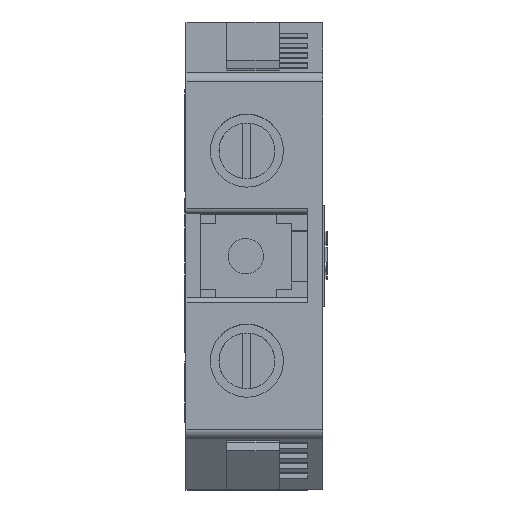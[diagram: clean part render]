
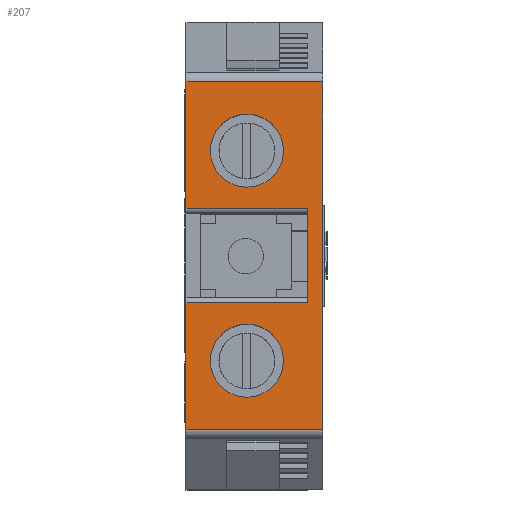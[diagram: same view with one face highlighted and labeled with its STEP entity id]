
A CAD part, top view. The second image highlights one B-rep face of the part: STEP entity #207.
In plain terms, the highlighted planar face has unit normal (0, 0, 1).
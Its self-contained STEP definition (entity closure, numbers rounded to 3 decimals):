
#207=ADVANCED_FACE('',(#20808,#20810,#20812),#20814,.T.);
#20808=FACE_BOUND('',#20809,.T.);
#20809=EDGE_LOOP('',(#36990,#36991,#36992,#36993,#36994,#36995,#36996,#36997));
#20810=FACE_BOUND('',#20811,.T.);
#20811=EDGE_LOOP('',(#36998));
#20812=FACE_BOUND('',#20813,.T.);
#20813=EDGE_LOOP('',(#36999));
#20814=PLANE('',#20815);
#20815=AXIS2_PLACEMENT_3D('',#20816,#20817,#20818);
#20816=CARTESIAN_POINT('',(0.,17.122,57.5));
#20817=DIRECTION('',(0.,0.,1.));
#20818=DIRECTION('',(0.,-1.,0.));
#36990=ORIENTED_EDGE('',*,*,#50114,.T.);
#36991=ORIENTED_EDGE('',*,*,#50115,.T.);
#36992=ORIENTED_EDGE('',*,*,#50116,.T.);
#36993=ORIENTED_EDGE('',*,*,#50117,.F.);
#36994=ORIENTED_EDGE('',*,*,#50118,.T.);
#36995=ORIENTED_EDGE('',*,*,#50119,.T.);
#36996=ORIENTED_EDGE('',*,*,#50120,.F.);
#36997=ORIENTED_EDGE('',*,*,#50121,.F.);
#36998=ORIENTED_EDGE('',*,*,#50081,.T.);
#36999=ORIENTED_EDGE('',*,*,#50122,.T.);
#50081=EDGE_CURVE('',#56681,#56681,#56682,.F.);
#50114=EDGE_CURVE('',#56737,#56738,#56739,.T.);
#50115=EDGE_CURVE('',#56738,#56740,#56741,.T.);
#50116=EDGE_CURVE('',#56740,#56742,#56743,.T.);
#50117=EDGE_CURVE('',#56744,#56742,#56745,.T.);
#50118=EDGE_CURVE('',#56744,#56746,#56747,.T.);
#50119=EDGE_CURVE('',#56746,#56748,#56749,.T.);
#50120=EDGE_CURVE('',#56750,#56748,#56751,.T.);
#50121=EDGE_CURVE('',#56737,#56750,#56752,.T.);
#50122=EDGE_CURVE('',#56753,#56753,#56754,.F.);
#56681=VERTEX_POINT('',#67668);
#56682=CIRCLE('',#67669,3.6);
#56737=VERTEX_POINT('',#67794);
#56738=VERTEX_POINT('',#67795);
#56739=LINE('',#67796,#67797);
#56740=VERTEX_POINT('',#67799);
#56741=LINE('',#67800,#67801);
#56742=VERTEX_POINT('',#67803);
#56743=LINE('',#67804,#67805);
#56744=VERTEX_POINT('',#67807);
#56745=LINE('',#67808,#67809);
#56746=VERTEX_POINT('',#67811);
#56747=LINE('',#67812,#67813);
#56748=VERTEX_POINT('',#67815);
#56749=LINE('',#67816,#67817);
#56750=VERTEX_POINT('',#67819);
#56751=LINE('',#67820,#67821);
#56752=LINE('',#67823,#67824);
#56753=VERTEX_POINT('',#67826);
#56754=CIRCLE('',#67827,3.6);
#67668=CARTESIAN_POINT('',(6.,13.95,57.5));
#67669=AXIS2_PLACEMENT_3D('',#67670,#67671,#67672);
#67670=CARTESIAN_POINT('',(6.,10.35,57.5));
#67671=DIRECTION('',(0.,0.,1.));
#67672=DIRECTION('',(0.,1.,0.));
#67794=CARTESIAN_POINT('',(0.,17.122,57.5));
#67795=CARTESIAN_POINT('',(0.,4.65,57.5));
#67796=CARTESIAN_POINT('',(0.,17.122,57.5));
#67797=VECTOR('',#67798,1.);
#67798=DIRECTION('',(0.,-1.,0.));
#67799=CARTESIAN_POINT('',(12.,4.65,57.5));
#67800=CARTESIAN_POINT('',(0.,4.65,57.5));
#67801=VECTOR('',#67802,1.);
#67802=DIRECTION('',(1.,0.,0.));
#67803=CARTESIAN_POINT('',(12.,-4.65,57.5));
#67804=CARTESIAN_POINT('',(12.,4.65,57.5));
#67805=VECTOR('',#67806,1.);
#67806=DIRECTION('',(0.,-1.,0.));
#67807=CARTESIAN_POINT('',(0.,-4.65,57.5));
#67808=CARTESIAN_POINT('',(0.,-4.65,57.5));
#67809=VECTOR('',#67810,1.);
#67810=DIRECTION('',(1.,0.,0.));
#67811=CARTESIAN_POINT('',(0.,-17.122,57.5));
#67812=CARTESIAN_POINT('',(0.,-4.65,57.5));
#67813=VECTOR('',#67814,1.);
#67814=DIRECTION('',(0.,-1.,0.));
#67815=CARTESIAN_POINT('',(13.5,-17.122,57.5));
#67816=CARTESIAN_POINT('',(0.,-17.122,57.5));
#67817=VECTOR('',#67818,1.);
#67818=DIRECTION('',(1.,0.,0.));
#67819=CARTESIAN_POINT('',(13.5,17.122,57.5));
#67820=CARTESIAN_POINT('',(13.5,17.122,57.5));
#67821=VECTOR('',#67822,1.);
#67822=DIRECTION('',(0.,-1.,0.));
#67823=CARTESIAN_POINT('',(0.,17.122,57.5));
#67824=VECTOR('',#67825,1.);
#67825=DIRECTION('',(1.,0.,0.));
#67826=CARTESIAN_POINT('',(6.,-6.75,57.5));
#67827=AXIS2_PLACEMENT_3D('',#67828,#67829,#67830);
#67828=CARTESIAN_POINT('',(6.,-10.35,57.5));
#67829=DIRECTION('',(0.,0.,1.));
#67830=DIRECTION('',(0.,1.,0.));
